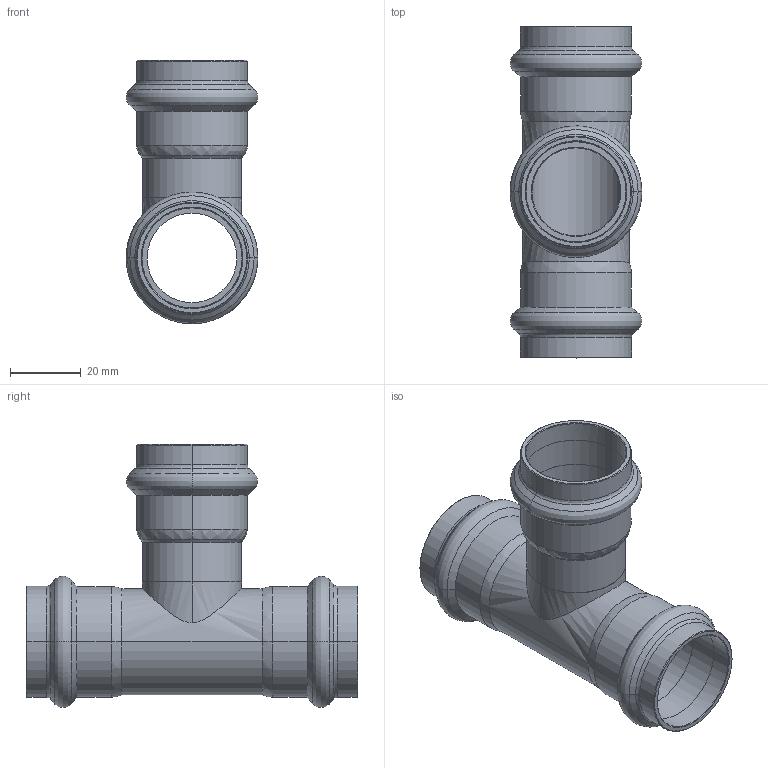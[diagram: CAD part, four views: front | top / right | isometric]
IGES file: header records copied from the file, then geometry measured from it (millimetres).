
Start section: Elysium IGES Interface
Global section: file name: C:\3d modellen sudo\C-Pr VP\SP8130V\8130VW28.igs; native system: CoCreate Modeling 17.00A  17-Jun-2010; preprocessor: CoCreate IGES_3D V2.2; author: Unknown; organization: Unknown; date: 20130129.161628; units: millimetre
Bounding box: 37.2 x 93.81 x 74.43 mm (x, y, z)
Volume: 23094.9 mm3; surface area: 26256.3 mm2
Topology: 1 solids, 1 shells, 128 faces, 272 edges, 154 vertices
Faces by surface type: bspline 128
